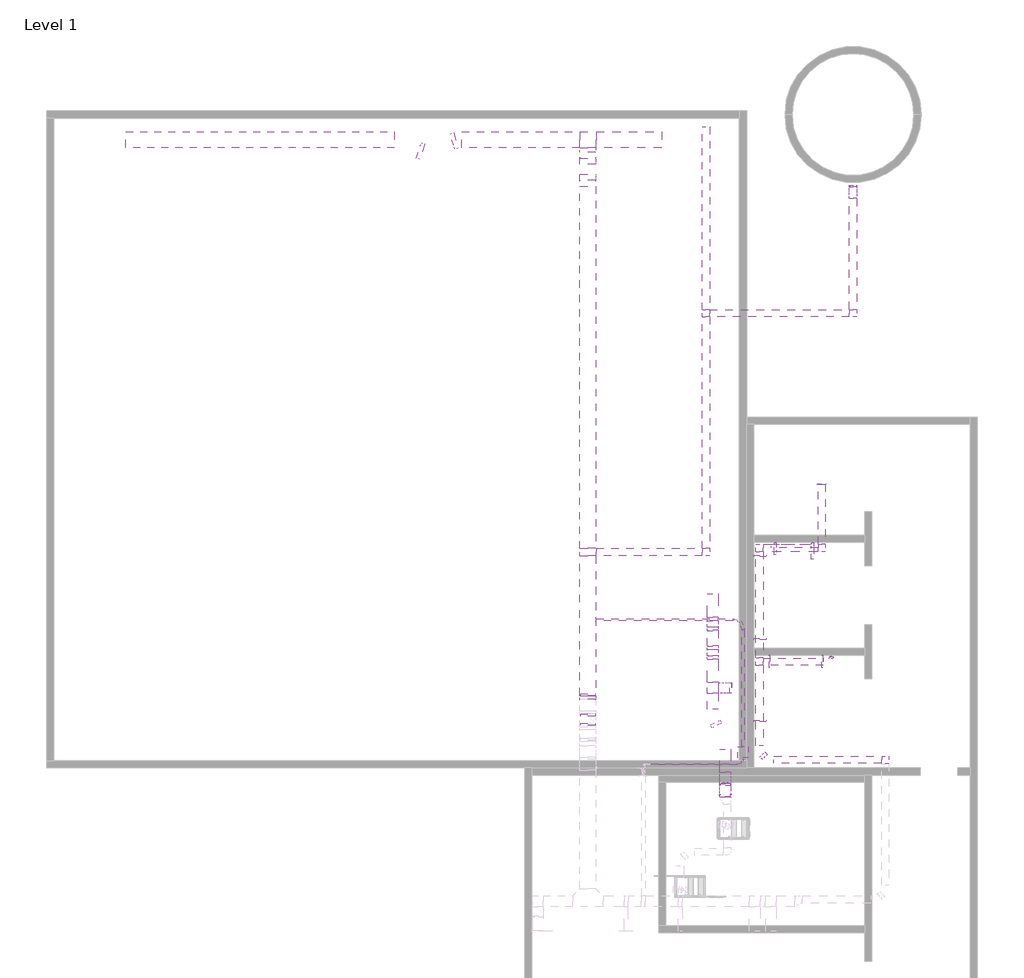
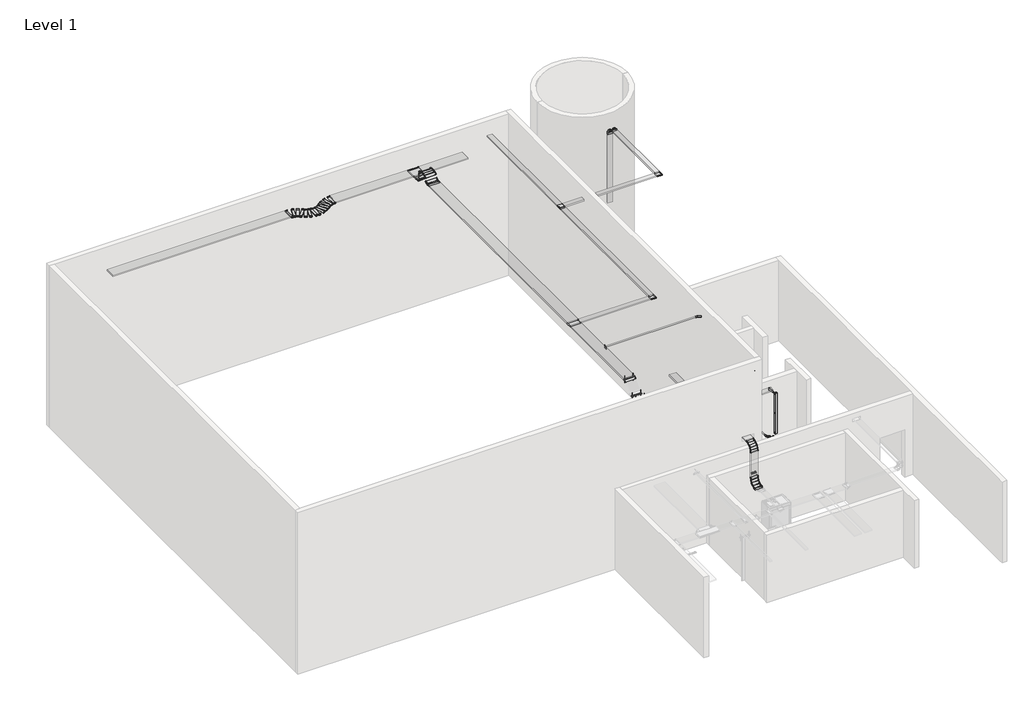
# One storey, part 3 of 3: 33 cable carrier segments, 29 cable carrier fittings, 17 electric appliances.
"""IFC4 building model written with IfcOpenShell, lengths in millimetres."""

from ifc_helpers import new_model, si_unit, point, frame, frame_2d, origin, place, context, project, spatial, polyline, circle_curve, trimmed, segment, composite_curve, outline, extrude, transform, mapped, element, save
from components import cable_carrier_fitting_1d7cee85, cable_carrier_fitting_d4a0889a, cable_carrier_fitting_e2da64ca, cable_carrier_fitting_e0ec710b, cable_carrier_fitting_238cf4a7, cable_carrier_fitting_5fe02373, cable_carrier_fitting_1cd74130, cable_carrier_fitting_0f341e1d, cable_carrier_fitting_95b36328, cable_carrier_fitting_2dc3f8d2, cable_carrier_fitting_cd092c5d, cable_carrier_fitting_32664b4b, conduit_elbow_plain_end_pvc_standard_b2e2501a, conduit_elbow_plain_end_pvc_standard_9a413171, conduit_junction_box_transition_pvc_standard_5b6be8b8, inside_feb4f6bf, inside_6eb1aa11, outside_c7e362af, outside_e205a3c8, outside_15df26a3, outside_2ad792aa, standard_9af1a614, electric_appliance_c7009005, standard_d3cc3933, standard_755d2ce0, standard_d35a98ab, standard_966c1fd9, standard_ea093acd, standard_c6b716ef, standard_7210bdc4, standard_b028e5ef

model = new_model("IFC4")

# Units and contexts
model_context = context("Model", 3, world=origin())
ifc_project = project(units=[si_unit("LENGTHUNIT", "METRE", prefix="MILLI")], contexts=[model_context])

# Site, building, storey
site = spatial("IfcSite", under=ifc_project)
building = spatial("IfcBuilding", under=site)
storey = spatial("IfcBuildingStorey", under=building, Name="Level 1", Elevation=0.0)

# Cable carrier fittings
placement = place(None, origin())
cable_carrier_fitting_shape = cable_carrier_fitting_1d7cee85(model_context)
element("IfcCableCarrierFitting", 1, ObjectType="Tee-Cablofil-Wire_Mesh_Cable_Tray : EZ T 90 KIT", at=placement, inside=storey, context=model_context, shape_type="MappedRepresentation", body=[
    mapped(cable_carrier_fitting_shape, transform((1590.1308637, 3116.8248952, 3962.4), x_axis=(0.0, 1.0, 0.0), y_axis=(-1.0, 0.0, 0.0), z_axis=(0.0, 0.0, 1.0))),
])
cable_carrier_fitting_2_shape = cable_carrier_fitting_d4a0889a(model_context)
element("IfcCableCarrierFitting", 2, ObjectType="Tee-Cablofil-Wire_Mesh_Cable_Tray : EZ T 90 KIT", at=placement, inside=storey, context=model_context, shape_type="MappedRepresentation", body=[
    mapped(cable_carrier_fitting_2_shape, transform((-1955.469197, 6970.8232107, 6807.2), x_axis=(0.0, 1.0, 0.0), y_axis=(-1.0, 0.0, 0.0), z_axis=(0.0, 0.0, 1.0))),
])
cable_carrier_fitting_3_shape = cable_carrier_fitting_e2da64ca(model_context)
element("IfcCableCarrierFitting", 3, ObjectType="Tee-Cablofil-Wire_Mesh_Cable_Tray : EZ T 90 KIT", at=placement, inside=storey, context=model_context, shape_type="MappedRepresentation", body=[
    mapped(cable_carrier_fitting_3_shape, transform((2915.3791948, 3862.7174485, 3352.8), x_axis=(0.0, 1.0, 0.0), y_axis=(-1.0, 0.0, 0.0), z_axis=(0.0, 0.0, 1.0))),
])
cable_carrier_fitting_4_shape = cable_carrier_fitting_e0ec710b(model_context)
element("IfcCableCarrierFitting", 4, ObjectType="Tee-Cablofil-Wire_Mesh_Cable_Tray : EZ T 90 KIT", at=placement, inside=storey, context=model_context, shape_type="MappedRepresentation", body=[
    mapped(cable_carrier_fitting_4_shape, transform((1397.330803, 13746.5239249, 6807.2), x_axis=(0.0, 1.0, 0.0), y_axis=(-1.0, 0.0, 0.0), z_axis=(0.0, 0.0, 1.0))),
])
cable_carrier_fitting_5_shape = cable_carrier_fitting_238cf4a7(model_context)
element("IfcCableCarrierFitting", 5, ObjectType="Bend-Horizontal-Cablofil-Wire_Mesh_Cable_Tray : EZ T 90 KIT", at=placement, inside=storey, context=model_context, shape_type="MappedRepresentation", body=[
    mapped(cable_carrier_fitting_5_shape, transform((2915.3791948, 7088.2240224, 3352.8), x_axis=(-1.0, 0.0, 0.0), y_axis=(0.0, -1.0, 0.0), z_axis=(0.0, 0.0, 1.0))),
])
element("IfcCableCarrierFitting", 6, ObjectType="Bend-Horizontal-Cablofil-Wire_Mesh_Cable_Tray : EZ T 90 KIT", at=placement, inside=storey, context=model_context, shape_type="MappedRepresentation", body=[
    mapped(cable_carrier_fitting_5_shape, transform((4680.6791948, 7088.2240224, 3352.8), x_axis=(1.0, 0.0, 0.0), y_axis=(0.0, 1.0, 0.0), z_axis=(0.0, 0.0, 1.0))),
])
element("IfcCableCarrierFitting", 7, ObjectType="Bend-Horizontal-Cablofil-Wire_Mesh_Cable_Tray : EZ T 90 KIT", at=placement, inside=storey, context=model_context, shape_type="MappedRepresentation", body=[
    mapped(cable_carrier_fitting_5_shape, transform((6484.0791948, 1074.2295988, 3352.8), x_axis=(0.0, 1.0, 0.0), y_axis=(-1.0, 0.0, 0.0), z_axis=(0.0, 0.0, 1.0))),
])
element("IfcCableCarrierFitting", 8, ObjectType="Bend-Horizontal-Cablofil-Wire_Mesh_Cable_Tray : EZ T 90 KIT", at=placement, inside=storey, context=model_context, shape_type="MappedRepresentation", body=[
    mapped(cable_carrier_fitting_5_shape, transform((1397.330803, 6970.8232107, 6807.2), x_axis=(1.0, 0.0, 0.0), y_axis=(0.0, 1.0, 0.0), z_axis=(0.0, 0.0, 1.0))),
])
element("IfcCableCarrierFitting", 9, ObjectType="Bend-Horizontal-Cablofil-Wire_Mesh_Cable_Tray : EZ T 90 KIT", at=placement, inside=storey, context=model_context, shape_type="MappedRepresentation", body=[
    mapped(cable_carrier_fitting_5_shape, transform((5569.6791948, 13746.5239249, 6807.2), x_axis=(1.0, 0.0, 0.0), y_axis=(0.0, 1.0, 0.0), z_axis=(0.0, 0.0, 1.0))),
])
cable_carrier_fitting_6_shape = cable_carrier_fitting_5fe02373(model_context)
element("IfcCableCarrierFitting", 10, ObjectType="Tee-Cablofil-Wire_Mesh_Cable_Tray : EZ T 90 KIT", at=placement, inside=storey, context=model_context, shape_type="MappedRepresentation", body=[
    mapped(cable_carrier_fitting_6_shape, transform((-1955.469197, 18672.7015785, 6553.2), x_axis=(1.0, 0.0, 0.0), y_axis=(0.0, 1.0, 0.0), z_axis=(0.0, 0.0, 1.0))),
])
cable_carrier_fitting_7_shape = cable_carrier_fitting_1cd74130(model_context)
element("IfcCableCarrierFitting", 11, ObjectType="Bend-Horizontal-Cablofil-Wire_Mesh_Cable_Tray-Cablobend : Cablobend", at=placement, inside=storey, context=model_context, shape_type="MappedRepresentation", body=[
    mapped(cable_carrier_fitting_7_shape, transform((2915.3791948, 1074.2295988, 3352.8), x_axis=(0.0, -1.0, 0.0), y_axis=(1.0, 0.0, 0.0), z_axis=(0.0, 0.0, 1.0))),
])
cable_carrier_fitting_8_shape = cable_carrier_fitting_0f341e1d(model_context)
element("IfcCableCarrierFitting", 12, ObjectType="Offset-Horizontal-Cablofil-Wire_Mesh_Cable_Tray-Cablobend : Cablobend", at=placement, inside=storey, context=model_context, shape_type="MappedRepresentation", body=[
    mapped(cable_carrier_fitting_8_shape, transform((-5884.1247244, 18672.7015785, 6553.2), x_axis=(-1.0, 0.0, 0.0), y_axis=(0.0, -1.0, 0.0), z_axis=(0.0, 0.0, 1.0))),
])
cable_carrier_fitting_9_shape = cable_carrier_fitting_95b36328(model_context)
element("IfcCableCarrierFitting", 13, ObjectType="Offset-Horizontal-Cablofil-Wire_Mesh_Cable_Tray-Cablobend : Cablobend", at=placement, inside=storey, context=model_context, shape_type="MappedRepresentation", body=[
    mapped(cable_carrier_fitting_9_shape, transform((-6841.7047244, 18317.1015785, 6553.2), x_axis=(-1.0, 0.0, 0.0), y_axis=(0.0, -1.0, 0.0), z_axis=(0.0, 0.0, 1.0))),
])
cable_carrier_fitting_10_shape = cable_carrier_fitting_2dc3f8d2(model_context)
element("IfcCableCarrierFitting", 14, ObjectType="Offset-Horizontal-Cablofil-Wire_Mesh_Cable_Tray-Cablobend : Cablobend", at=placement, inside=storey, context=model_context, shape_type="MappedRepresentation", body=[
    mapped(cable_carrier_fitting_10_shape, transform((1945.7308637, 1738.7722779, 3962.4), x_axis=(0.0, 1.0, 0.0), y_axis=(-1.0, 0.0, 0.0), z_axis=(0.0, 0.0, 1.0))),
])
cable_carrier_fitting_11_shape = cable_carrier_fitting_cd092c5d(model_context)
element("IfcCableCarrierFitting", 15, ObjectType="Offset-Vertical-Cablofil-Wire_Mesh_Cable_Tray-Cablobend : Cablobend", at=placement, inside=storey, context=model_context, shape_type="MappedRepresentation", body=[
    mapped(cable_carrier_fitting_11_shape, transform((-1955.469197, 17629.6590062, 6807.2), x_axis=(0.0, 1.0, 0.0), y_axis=(-1.0, 0.0, 0.0), z_axis=(0.0, 0.0, 1.0))),
])
cable_carrier_fitting_12_shape = cable_carrier_fitting_32664b4b(model_context)
element("IfcCableCarrierFitting", 16, ObjectType="Offset-Vertical-Cablofil-Wire_Mesh_Cable_Tray-Cablobend : Cablobend", at=placement, inside=storey, context=model_context, shape_type="MappedRepresentation", body=[
    mapped(cable_carrier_fitting_12_shape, transform((-1955.469197, 18033.7499153, 6553.2), x_axis=(0.0, -1.0, 0.0), y_axis=(1.0, 0.0, 0.0), z_axis=(0.0, 0.0, 1.0))),
])
conduit_elbow_plain_end_pvc_standard_shape = conduit_elbow_plain_end_pvc_standard_b2e2501a(model_context)
element("IfcCableCarrierFitting", 17, ObjectType="Conduit Elbow - Plain End - PVC : Standard", at=placement, inside=storey, context=model_context, shape_type="MappedRepresentation", body=[
    mapped(conduit_elbow_plain_end_pvc_standard_shape, transform((2445.4791948, 945.2390015, 6807.2), x_axis=(1.0, 0.0, 0.0), y_axis=(0.0, 1.0, 0.0), z_axis=(0.0, 0.0, 1.0))),
])
conduit_elbow_plain_end_pvc_standard_2_shape = conduit_elbow_plain_end_pvc_standard_9a413171(model_context)
element("IfcCableCarrierFitting", 18, ObjectType="Conduit Elbow - Plain End - PVC : Standard", at=placement, inside=storey, context=model_context, shape_type="MappedRepresentation", body=[
    mapped(conduit_elbow_plain_end_pvc_standard_2_shape, transform((2445.4791948, 5050.8348146, 6807.2), x_axis=(0.0, 1.0, 0.0), y_axis=(-1.0, 0.0, 0.0), z_axis=(0.0, 0.0, 1.0))),
])
conduit_junction_box_transition_pvc_standard_shape = conduit_junction_box_transition_pvc_standard_5b6be8b8(model_context)
element("IfcCableCarrierFitting", 19, ObjectType="Conduit Junction Box - Transition - PVC : Standard", at=placement, inside=storey, context=model_context, shape_type="MappedRepresentation", body=[
    mapped(conduit_junction_box_transition_pvc_standard_shape, transform((2445.4791948, 1138.9140015, 6807.2), x_axis=(0.0, 1.0, 0.0), y_axis=(-1.0, 0.0, 0.0), z_axis=(0.0, 0.0, 1.0))),
])
inside_shape = inside_feb4f6bf(model_context)
element("IfcCableCarrierFitting", 20, ObjectType="Bend-Vertical-Cablofil-Wire_Mesh_Cable_Tray-Cablobend : Inside", at=placement, inside=storey, context=model_context, shape_type="MappedRepresentation", body=[
    mapped(inside_shape, transform((1945.7308637, 371.687315, 2165.35), x_axis=(0.0, 1.0, 0.0), y_axis=(0.0, 0.0, 1.0), z_axis=(1.0, 0.0, 0.0))),
])
element("IfcCableCarrierFitting", 21, ObjectType="Bend-Vertical-Cablofil-Wire_Mesh_Cable_Tray-Cablobend : Inside", at=placement, inside=storey, context=model_context, shape_type="MappedRepresentation", body=[
    mapped(inside_shape, transform((2095.8424874, 3116.8248952, 3962.4), x_axis=(1.0, 0.0, 0.0), y_axis=(0.0, 0.0, 1.0), z_axis=(0.0, -1.0, 0.0))),
])
inside_2_shape = inside_6eb1aa11(model_context)
element("IfcCableCarrierFitting", 22, ObjectType="Bend-Vertical-Cablofil-Wire_Mesh_Cable_Tray-Cablobend : Inside", at=placement, inside=storey, context=model_context, shape_type="MappedRepresentation", body=[
    mapped(inside_2_shape, transform((1590.1308637, 4248.3251075, 3810.0), x_axis=(0.0, 0.866025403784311, -0.5000000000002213), y_axis=(0.0, 0.5000000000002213, 0.866025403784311), z_axis=(1.0, 0.0, 0.0))),
])
element("IfcCableCarrierFitting", 23, ObjectType="Bend-Vertical-Cablofil-Wire_Mesh_Cable_Tray-Cablobend : Inside", at=placement, inside=storey, context=model_context, shape_type="MappedRepresentation", body=[
    mapped(inside_2_shape, transform((1590.1308637, 4797.1605644, 3810.0), x_axis=(0.0, 1.0, 0.0), y_axis=(0.0, 0.0, 1.0), z_axis=(1.0, 0.0, 0.0))),
])
outside_shape = outside_c7e362af(model_context)
element("IfcCableCarrierFitting", 24, ObjectType="Bend-Vertical-Cablofil-Wire_Mesh_Cable_Tray-Cablobend : Outside", at=placement, inside=storey, context=model_context, shape_type="MappedRepresentation", body=[
    mapped(outside_shape, transform((-1955.469197, 2829.6921374, 6807.2), x_axis=(0.0, 0.7071067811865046, 0.7071067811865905), y_axis=(0.0, 0.7071067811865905, -0.7071067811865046), z_axis=(-1.0, 0.0, 0.0))),
])
outside_2_shape = outside_e205a3c8(model_context)
element("IfcCableCarrierFitting", 25, ObjectType="Bend-Vertical-Cablofil-Wire_Mesh_Cable_Tray-Cablobend : Outside", at=placement, inside=storey, context=model_context, shape_type="MappedRepresentation", body=[
    mapped(outside_2_shape, transform((5569.6791948, 17358.4921374, 6807.2), x_axis=(0.0, 0.0, 1.0), y_axis=(0.0, -1.0, 0.0), z_axis=(1.0, 0.0, 0.0))),
])
outside_3_shape = outside_15df26a3(model_context)
element("IfcCableCarrierFitting", 26, ObjectType="Bend-Vertical-Cablofil-Wire_Mesh_Cable_Tray-Cablobend : Outside", at=placement, inside=storey, context=model_context, shape_type="MappedRepresentation", body=[
    mapped(outside_3_shape, transform((1945.7308637, 371.687315, 3962.4), x_axis=(0.0, 0.0, 1.0), y_axis=(0.0, 1.0, 0.0), z_axis=(-1.0, 0.0, 0.0))),
])
outside_4_shape = outside_2ad792aa(model_context)
element("IfcCableCarrierFitting", 27, ObjectType="Bend-Vertical-Cablofil-Wire_Mesh_Cable_Tray-Cablobend : Outside", at=placement, inside=storey, context=model_context, shape_type="MappedRepresentation", body=[
    mapped(outside_4_shape, transform((1590.1308637, 3984.3605644, 3962.4), x_axis=(0.0, 1.0, 0.0), y_axis=(0.0, 0.0, -1.0), z_axis=(-1.0, 0.0, 0.0))),
])
element("IfcCableCarrierFitting", 28, ObjectType="Bend-Vertical-Cablofil-Wire_Mesh_Cable_Tray-Cablobend : Outside", at=placement, inside=storey, context=model_context, shape_type="MappedRepresentation", body=[
    mapped(outside_4_shape, transform((1590.1308637, 5061.1251075, 3962.4), x_axis=(0.0, 0.866025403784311, 0.5000000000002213), y_axis=(0.0, 0.5000000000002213, -0.866025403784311), z_axis=(-1.0, 0.0, 0.0))),
])
standard_shape = standard_9af1a614(model_context)
element("IfcCableCarrierFitting", 29, ObjectType="End-Cablofil-Wire_Mesh_Cable_Tray : Standard", at=placement, inside=storey, context=model_context, shape_type="MappedRepresentation", body=[
    mapped(standard_shape, transform((4680.6791948, 8899.9695988, 3352.8), x_axis=(0.0, 1.0, 0.0), y_axis=(-1.0, 0.0, 0.0), z_axis=(0.0, 0.0, 1.0))),
])

# Cable carrier segments
element("IfcCableCarrierSegment", 30, ObjectType="Cable_Tray-Wire_Mesh-Cablofil-Universal_Splice", at=placement, inside=storey, context=model_context, shape_type="SweptSolid", body=[
    extrude(outline(polyline([(2098.1308637, 16.087315), (1793.3308637, 16.087315), (1793.3308637, 21.5506914), (2098.1308637, 21.5506914), (2098.1308637, 16.087315)])), frame((0.0, 0.0, 2139.95), z_axis=(0.0, 0.0, 1.0), x_axis=(1.0, 0.0, 0.0)), (0.0, 0.0, 1.0), 50.8),
])
element("IfcCableCarrierSegment", 31, ObjectType="Cable_Tray-Wire_Mesh-Cablofil-Fast_Splice", at=placement, inside=storey, context=model_context, shape_type="SweptSolid", body=[
    extrude(outline(polyline([(-1726.869197, 7075.5982107), (-2184.069197, 7075.5982107), (-2184.069197, 17349.1044607), (-1726.869197, 17349.1044607), (-1726.869197, 7075.5982107)])), frame((0.0, 0.0, 6781.8), z_axis=(0.0, 0.0, 1.0), x_axis=(1.0, 0.0, 0.0)), (0.0, 0.0, 1.0), 50.8),
])
element("IfcCableCarrierSegment", 32, ObjectType="Cable_Tray-Wire_Mesh-Cablofil-Universal_Splice", at=placement, inside=storey, context=model_context, shape_type="SweptSolid", body=[
    extrude(outline(polyline([(3321.7791948, 972.6295988), (3321.7791948, 1175.8295988), (6379.3041948, 1175.8295988), (6379.3041948, 972.6295988), (3321.7791948, 972.6295988)])), frame((0.0, 0.0, 3327.4), z_axis=(0.0, 0.0, 1.0), x_axis=(1.0, 0.0, 0.0)), (0.0, 0.0, 1.0), 50.8),
])
element("IfcCableCarrierSegment", 33, ObjectType="Cable_Tray-Wire_Mesh-Cablofil-Universal_Splice", at=placement, inside=storey, context=model_context, shape_type="SweptSolid", body=[
    extrude(outline(polyline([(2813.7791948, 3757.9424485), (3016.9791948, 3757.9424485), (3016.9791948, 1480.6295988), (2813.7791948, 1480.6295988), (2813.7791948, 3757.9424485)])), frame((0.0, 0.0, 3327.4), z_axis=(0.0, 0.0, 1.0), x_axis=(1.0, 0.0, 0.0)), (0.0, 0.0, 1.0), 50.8),
])
element("IfcCableCarrierSegment", 34, ObjectType="Cable_Tray-Wire_Mesh-Cablofil-Universal_Splice", at=placement, inside=storey, context=model_context, shape_type="SweptSolid", body=[
    extrude(outline(polyline([(3020.1541948, 3761.1174485), (3020.1541948, 3964.3174485), (4721.9541948, 3964.3174485), (4721.9541948, 3761.1174485), (3020.1541948, 3761.1174485)])), frame((0.0, 0.0, 3327.4), z_axis=(0.0, 0.0, 1.0), x_axis=(1.0, 0.0, 0.0)), (0.0, 0.0, 1.0), 50.8),
])
element("IfcCableCarrierSegment", 35, ObjectType="Cable_Tray-Wire_Mesh-Cablofil-Universal_Splice", at=placement, inside=storey, context=model_context, shape_type="SweptSolid", body=[
    extrude(outline(polyline([(3016.9791948, 3967.4924485), (2813.7791948, 3967.4924485), (2813.7791948, 6983.4490224), (3016.9791948, 6983.4490224), (3016.9791948, 3967.4924485)])), frame((0.0, 0.0, 3327.4), z_axis=(0.0, 0.0, 1.0), x_axis=(1.0, 0.0, 0.0)), (0.0, 0.0, 1.0), 50.8),
])
element("IfcCableCarrierSegment", 36, ObjectType="Cable_Tray-Wire_Mesh-Cablofil-Universal_Splice", at=placement, inside=storey, context=model_context, shape_type="SweptSolid", body=[
    extrude(outline(polyline([(3020.1541948, 6986.6240224), (3020.1541948, 7189.8240224), (4575.9041948, 7189.8240224), (4575.9041948, 6986.6240224), (3020.1541948, 6986.6240224)])), frame((0.0, 0.0, 3327.4), z_axis=(0.0, 0.0, 1.0), x_axis=(1.0, 0.0, 0.0)), (0.0, 0.0, 1.0), 50.8),
])
element("IfcCableCarrierSegment", 37, ObjectType="Cable_Tray-Wire_Mesh-Cablofil-Universal_Splice", at=placement, inside=storey, context=model_context, shape_type="SweptSolid", body=[
    extrude(outline(polyline([(4782.2791948, 7192.9990224), (4579.0791948, 7192.9990224), (4579.0791948, 8899.9695988), (4782.2791948, 8899.9695988), (4782.2791948, 7192.9990224)])), frame((0.0, 0.0, 3327.4), z_axis=(0.0, 0.0, 1.0), x_axis=(1.0, 0.0, 0.0)), (0.0, 0.0, 1.0), 50.8),
])
element("IfcCableCarrierSegment", 38, ObjectType="Cable_Tray-Wire_Mesh-Cablofil-Fast_Splice", at=placement, inside=storey, context=model_context, shape_type="SweptSolid", body=[
    extrude(outline(polyline([(-1723.694197, 6869.2232107), (-1723.694197, 7072.4232107), (1292.555803, 7072.4232107), (1292.555803, 6869.2232107), (-1723.694197, 6869.2232107)])), frame((0.0, 0.0, 6781.8), z_axis=(0.0, 0.0, 1.0), x_axis=(1.0, 0.0, 0.0)), (0.0, 0.0, 1.0), 50.8),
])
element("IfcCableCarrierSegment", 39, ObjectType="Cable_Tray-Wire_Mesh-Cablofil-Cablobend", at=placement, inside=storey, context=model_context, shape_type="SweptSolid", body=[
    extrude(outline(polyline([(-1726.869197, 2895.1986857), (-2184.069197, 2895.1986857), (-2184.069197, 6866.0482107), (-1726.869197, 6866.0482107), (-1726.869197, 2895.1986857)])), frame((0.0, 0.0, 6781.8), z_axis=(0.0, 0.0, 1.0), x_axis=(1.0, 0.0, 0.0)), (0.0, 0.0, 1.0), 50.8),
])
element("IfcCableCarrierSegment", 40, ObjectType="Cable_Tray-Wire_Mesh-Cablofil-Fast_Splice", at=placement, inside=storey, context=model_context, shape_type="SweptSolid", body=[
    extrude(outline(polyline([(1498.930803, 13851.2989249), (1295.730803, 13851.2989249), (1295.730803, 19032.2639249), (1498.930803, 19032.2639249), (1498.930803, 13851.2989249)])), frame((0.0, 0.0, 6781.8), z_axis=(0.0, 0.0, 1.0), x_axis=(1.0, 0.0, 0.0)), (0.0, 0.0, 1.0), 50.8),
])
element("IfcCableCarrierSegment", 41, ObjectType="Cable_Tray-Wire_Mesh-Cablofil-Fast_Splice", at=placement, inside=storey, context=model_context, shape_type="SweptSolid", body=[
    extrude(outline(polyline([(1502.105803, 13644.9239249), (1502.105803, 13848.1239249), (5464.9041948, 13848.1239249), (5464.9041948, 13644.9239249), (1502.105803, 13644.9239249)])), frame((0.0, 0.0, 6781.8), z_axis=(0.0, 0.0, 1.0), x_axis=(1.0, 0.0, 0.0)), (0.0, 0.0, 1.0), 50.8),
])
element("IfcCableCarrierSegment", 42, ObjectType="Cable_Tray-Wire_Mesh-Cablofil-Fast_Splice", at=placement, inside=storey, context=model_context, shape_type="SweptSolid", body=[
    extrude(outline(polyline([(1295.730803, 13641.7489249), (1498.930803, 13641.7489249), (1498.930803, 7075.5982107), (1295.730803, 7075.5982107), (1295.730803, 13641.7489249)])), frame((0.0, 0.0, 6781.8), z_axis=(0.0, 0.0, 1.0), x_axis=(1.0, 0.0, 0.0)), (0.0, 0.0, 1.0), 50.8),
])
element("IfcCableCarrierSegment", 43, ObjectType="Cable_Tray-Wire_Mesh-Cablofil-Fast_Splice", at=placement, inside=storey, context=model_context, shape_type="SweptSolid", body=[
    extrude(outline(polyline([(5468.0791948, 17008.3555138), (5671.2791948, 17008.3555138), (5671.2791948, 13851.2989249), (5468.0791948, 13851.2989249), (5468.0791948, 17008.3555138)])), frame((0.0, 0.0, 6781.8), z_axis=(0.0, 0.0, 1.0), x_axis=(1.0, 0.0, 0.0)), (0.0, 0.0, 1.0), 50.8),
])
element("IfcCableCarrierSegment", 44, ObjectType="Cable_Tray-Wire_Mesh-Cablofil-Fast_Splice", at=placement, inside=storey, context=model_context, shape_type="SweptSolid", body=[
    extrude(outline(polyline([(5671.2791948, 17333.0921374), (5468.0791948, 17333.0921374), (5468.0791948, 17383.8921374), (5671.2791948, 17383.8921374), (5671.2791948, 17333.0921374)])), frame((0.0, 0.0, 3352.8), z_axis=(0.0, 0.0, 1.0), x_axis=(1.0, 0.0, 0.0)), (0.0, 0.0, 1.0), 3104.2633763),
])
element("IfcCableCarrierSegment", 45, ObjectType="Rigid Nonmetallic Conduit (RNC Sch 40)", at=placement, inside=storey, context=model_context, shape_type="SweptSolid", body=[
    extrude(outline(composite_curve([segment(trimmed(circle_curve(frame_2d((945.2390015, 6807.2)), 16.7005), [point((928.5385015, 6807.2))], [point((945.2390015, 6823.9005))], False, "CARTESIAN"), True, "CONTINUOUS"), segment(trimmed(circle_curve(frame_2d((945.2390015, 6807.2)), 16.7005), [point((945.2390015, 6823.9005))], [point((961.9395015, 6807.2))], False, "CARTESIAN"), True, "CONTINUOUS"), segment(trimmed(circle_curve(frame_2d((945.2390015, 6807.2)), 16.7005), [point((961.9395015, 6807.2))], [point((945.2390015, 6790.4995))], False, "CARTESIAN"), True, "CONTINUOUS"), segment(trimmed(circle_curve(frame_2d((945.2390015, 6807.2)), 16.7005), [point((945.2390015, 6790.4995))], [point((928.5385015, 6807.2))], False, "CARTESIAN"), True, "CONTINUOUS")], self_intersect=False)), frame((-160.822722, 0.0, 0.0), z_axis=(1.0, 0.0, 0.0), x_axis=(0.0, 1.0, 0.0)), (0.0, 0.0, 1.0), 2412.6269167),
])
element("IfcCableCarrierSegment", 46, ObjectType="Rigid Nonmetallic Conduit (RNC Sch 40)", at=placement, inside=storey, context=model_context, shape_type="SweptSolid", body=[
    extrude(outline(composite_curve([segment(trimmed(circle_curve(frame_2d((5050.8348146, 6807.2)), 30.1625), [point((5080.9973146, 6807.2))], [point((5050.8348146, 6777.0375))], False, "CARTESIAN"), True, "CONTINUOUS"), segment(trimmed(circle_curve(frame_2d((5050.8348146, 6807.2)), 30.1625), [point((5050.8348146, 6777.0375))], [point((5020.6723146, 6807.2))], False, "CARTESIAN"), True, "CONTINUOUS"), segment(trimmed(circle_curve(frame_2d((5050.8348146, 6807.2)), 30.1625), [point((5020.6723146, 6807.2))], [point((5050.8348146, 6837.3625))], False, "CARTESIAN"), True, "CONTINUOUS"), segment(trimmed(circle_curve(frame_2d((5050.8348146, 6807.2)), 30.1625), [point((5050.8348146, 6837.3625))], [point((5080.9973146, 6807.2))], False, "CARTESIAN"), True, "CONTINUOUS")], self_intersect=False)), frame((-1725.675397, 0.0, 0.0), z_axis=(1.0, 0.0, 0.0), x_axis=(0.0, 1.0, 0.0)), (0.0, 0.0, 1.0), 3879.0545917),
])
element("IfcCableCarrierSegment", 47, ObjectType="Rigid Nonmetallic Conduit (RNC Sch 40)", at=placement, inside=storey, context=model_context, shape_type="SweptSolid", body=[
    extrude(outline(composite_curve([segment(trimmed(circle_curve(frame_2d((6807.2, 2445.4791948)), 30.1625), [point((6807.2, 2475.6416948))], [point((6837.3625, 2445.4791948))], False, "CARTESIAN"), True, "CONTINUOUS"), segment(trimmed(circle_curve(frame_2d((6807.2, 2445.4791948)), 30.1625), [point((6837.3625, 2445.4791948))], [point((6807.2, 2415.3166948))], False, "CARTESIAN"), True, "CONTINUOUS"), segment(trimmed(circle_curve(frame_2d((6807.2, 2445.4791948)), 30.1625), [point((6807.2, 2415.3166948))], [point((6777.0375, 2445.4791948))], False, "CARTESIAN"), True, "CONTINUOUS"), segment(trimmed(circle_curve(frame_2d((6807.2, 2445.4791948)), 30.1625), [point((6777.0375, 2445.4791948))], [point((6807.2, 2475.6416948))], False, "CARTESIAN"), True, "CONTINUOUS")], self_intersect=False)), frame((0.0, 1443.7140015, 0.0), z_axis=(0.0, 1.0, 0.0), x_axis=(0.0, 0.0, 1.0)), (0.0, 0.0, 1.0), 3315.0208131),
])
element("IfcCableCarrierSegment", 48, ObjectType="Cable_Tray-Wire_Mesh-Cablofil-G_Tray", at=placement, inside=storey, context=model_context, shape_type="SweptSolid", body=[
    extrude(outline(polyline([(5001.2539753, 3999.5890015), (5001.2539753, 3948.7890015), (4899.6539753, 3948.7890015), (4899.6539753, 3999.5890015), (5001.2539753, 3999.5890015)])), frame((0.0, 0.0, 1219.2001018), z_axis=(0.0, 0.0, 1.0), x_axis=(1.0, 0.0, 0.0)), (0.0, 0.0, 1.0), 1828.8001018),
])
element("IfcCableCarrierSegment", 49, ObjectType="Cable_Tray-Wire_Mesh-Cablofil-G_Tray", at=placement, inside=storey, context=model_context, shape_type="SweptSolid", body=[
    extrude(outline(polyline([(3255.1041948, 7088.2240224), (3255.1041948, 7189.8240224), (4575.9041948, 7189.8240224), (4575.9041948, 7088.2240224), (3255.1041948, 7088.2240224)])), frame((0.0, 0.0, 3562.858), z_axis=(0.0, 0.0, 1.0), x_axis=(1.0, 0.0, 0.0)), (0.0, 0.0, 1.0), 50.8),
])
element("IfcCableCarrierSegment", 50, ObjectType="Cable_Tray-Wire_Mesh-Cablofil-Cablobend", at=placement, inside=storey, context=model_context, shape_type="SweptSolid", body=[
    extrude(outline(polyline([(2098.1308637, 721.8239387), (1793.3308637, 721.8239387), (1793.3308637, 1381.6724137), (2098.1308637, 1381.6724137), (2098.1308637, 721.8239387)])), frame((0.0, 0.0, 3937.0), z_axis=(0.0, 0.0, 1.0), x_axis=(1.0, 0.0, 0.0)), (0.0, 0.0, 1.0), 50.8),
])
element("IfcCableCarrierSegment", 51, ObjectType="Cable_Tray-Wire_Mesh-Cablofil-Universal_Splice", at=placement, inside=storey, context=model_context, shape_type="SweptSolid", body=[
    extrude(outline(polyline([(2098.1308637, 397.087315), (2098.1308637, 346.287315), (1793.3308637, 346.287315), (1793.3308637, 397.087315), (2098.1308637, 397.087315)])), frame((0.0, 0.0, 2515.4866237), z_axis=(0.0, 0.0, 1.0), x_axis=(1.0, 0.0, 0.0)), (0.0, 0.0, 1.0), 1096.7767527),
])
element("IfcCableCarrierSegment", 52, ObjectType="Cable_Tray-Wire_Mesh-Cablofil-Cablobend", at=placement, inside=storey, context=model_context, shape_type="SweptSolid", body=[
    extrude(outline(polyline([(1742.5308637, 3272.3998952), (1437.7308637, 3272.3998952), (1437.7308637, 3924.962625), (1742.5308637, 3924.962625), (1742.5308637, 3272.3998952)])), frame((0.0, 0.0, 3937.0), z_axis=(0.0, 0.0, 1.0), x_axis=(1.0, 0.0, 0.0)), (0.0, 0.0, 1.0), 50.8),
])
element("IfcCableCarrierSegment", 53, ObjectType="Cable_Tray-Wire_Mesh-Cablofil-Cablobend", at=placement, inside=storey, context=model_context, shape_type="SweptSolid", body=[
    extrude(outline(polyline([(1742.5308637, 4307.723047), (1437.7308637, 4307.723047), (1437.7308637, 4737.762625), (1742.5308637, 4737.762625), (1742.5308637, 4307.723047)])), frame((0.0, 0.0, 3784.6), z_axis=(0.0, 0.0, 1.0), x_axis=(1.0, 0.0, 0.0)), (0.0, 0.0, 1.0), 50.8),
])
element("IfcCableCarrierSegment", 54, ObjectType="Cable_Tray-Wire_Mesh-Cablofil-Cablobend", at=placement, inside=storey, context=model_context, shape_type="SweptSolid", body=[
    extrude(outline(polyline([(0.0, -304.8), (0.0, 0.0), (186.0041211, 0.0), (186.0041211, -304.8), (0.0, -304.8)])), frame((1437.7308637, 4023.1006889, 3910.703985), z_axis=(0.0, 0.5000000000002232, 0.8660254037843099), x_axis=(0.0, 0.8660254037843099, -0.5000000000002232)), (0.0, 0.0, 1.0), 50.8),
])
element("IfcCableCarrierSegment", 55, ObjectType="Cable_Tray-Wire_Mesh-Cablofil-Cablobend", at=placement, inside=storey, context=model_context, shape_type="SweptSolid", body=[
    extrude(outline(polyline([(1742.5308637, 5120.523047), (1437.7308637, 5120.523047), (1437.7308637, 5787.7605644), (1742.5308637, 5787.7605644), (1742.5308637, 5120.523047)])), frame((0.0, 0.0, 3937.0), z_axis=(0.0, 0.0, 1.0), x_axis=(1.0, 0.0, 0.0)), (0.0, 0.0, 1.0), 50.8),
])
element("IfcCableCarrierSegment", 56, ObjectType="Cable_Tray-Wire_Mesh-Cablofil-Cablobend", at=placement, inside=storey, context=model_context, shape_type="SweptSolid", body=[
    extrude(outline(polyline([(0.0, -304.8), (0.0, 0.0), (186.0041211, 0.0), (186.0041211, -304.8), (0.0, -304.8)])), frame((1437.7308637, 4861.3006889, 3817.7019245), z_axis=(0.0, -0.5000000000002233, 0.8660254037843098), x_axis=(0.0, 0.8660254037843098, 0.5000000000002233)), (0.0, 0.0, 1.0), 50.8),
])
element("IfcCableCarrierSegment", 57, ObjectType="Cable_Tray-Wire_Mesh-Cablofil-Cablobend", at=placement, inside=storey, context=model_context, shape_type="SweptSolid", body=[
    extrude(outline(polyline([(1742.5308637, 2504.3524137), (1437.7308637, 2504.3524137), (1437.7308637, 2961.2498952), (1742.5308637, 2961.2498952), (1742.5308637, 2504.3524137)])), frame((0.0, 0.0, 3937.0), z_axis=(0.0, 0.0, 1.0), x_axis=(1.0, 0.0, 0.0)), (0.0, 0.0, 1.0), 50.8),
])
element("IfcCableCarrierSegment", 58, ObjectType="Cable_Tray-Wire_Mesh-Cablofil-Cablobend", at=placement, inside=storey, context=model_context, shape_type="SweptSolid", body=[
    extrude(outline(polyline([(2121.2424874, 2964.4248952), (2070.4424874, 2964.4248952), (2070.4424874, 3269.2248952), (2121.2424874, 3269.2248952), (2121.2424874, 2964.4248952)])), frame((0.0, 0.0, 4312.5366237), z_axis=(0.0, 0.0, 1.0), x_axis=(1.0, 0.0, 0.0)), (0.0, 0.0, 1.0), 417.3267527),
])
element("IfcCableCarrierSegment", 59, ObjectType="Cable_Tray-Wire_Mesh-Cablofil-Fast_Splice", at=placement, inside=storey, context=model_context, shape_type="SweptSolid", body=[
    extrude(outline(polyline([(-2187.244197, 18901.3015785), (-2187.244197, 18444.1015785), (-5526.8252151, 18444.1015785), (-5526.8252151, 18901.3015785), (-2187.244197, 18901.3015785)])), frame((0.0, 0.0, 6527.8), z_axis=(0.0, 0.0, 1.0), x_axis=(1.0, 0.0, 0.0)), (0.0, 0.0, 1.0), 50.8),
])
element("IfcCableCarrierSegment", 60, ObjectType="Cable_Tray-Wire_Mesh-Cablofil-Fast_Splice", at=placement, inside=storey, context=model_context, shape_type="SweptSolid", body=[
    extrude(outline(polyline([(-2184.069197, 18440.9265785), (-1726.869197, 18440.9265785), (-1726.869197, 18314.3044607), (-2184.069197, 18314.3044607), (-2184.069197, 18440.9265785)])), frame((0.0, 0.0, 6527.8), z_axis=(0.0, 0.0, 1.0), x_axis=(1.0, 0.0, 0.0)), (0.0, 0.0, 1.0), 50.8),
])
element("IfcCableCarrierSegment", 61, ObjectType="Cable_Tray-Wire_Mesh-Cablofil-Fast_Splice", at=placement, inside=storey, context=model_context, shape_type="SweptSolid", body=[
    extrude(outline(polyline([(142.2421049, 18901.3015785), (142.2421049, 18444.1015785), (-1723.694197, 18444.1015785), (-1723.694197, 18901.3015785), (142.2421049, 18901.3015785)])), frame((0.0, 0.0, 6527.8), z_axis=(0.0, 0.0, 1.0), x_axis=(1.0, 0.0, 0.0)), (0.0, 0.0, 1.0), 50.8),
])
element("IfcCableCarrierSegment", 62, ObjectType="Cable_Tray-Wire_Mesh-Cablofil-Fast_Splice", at=placement, inside=storey, context=model_context, shape_type="SweptSolid", body=[
    extrude(outline(polyline([(-7441.9852151, 18901.3015785), (-7441.9852151, 18444.1015785), (-15061.9852151, 18444.1015785), (-15061.9852151, 18901.3015785), (-7441.9852151, 18901.3015785)])), frame((0.0, 0.0, 6527.8), z_axis=(0.0, 0.0, 1.0), x_axis=(1.0, 0.0, 0.0)), (0.0, 0.0, 1.0), 50.8),
])

# Electric appliances
electric_appliance_shape = electric_appliance_c7009005(model_context)
element("IfcElectricAppliance", 63, ObjectType="Clamp-Conduit-Cablofil : For 1/2\" - 4\" Conduit", at=placement, inside=storey, context=model_context, shape_type="MappedRepresentation", body=[
    mapped(electric_appliance_shape, transform((-1726.869197, 5050.8348146, 6807.2), x_axis=(0.0, 1.0, 0.0), y_axis=(0.0, 0.0, 1.0), z_axis=(1.0, 0.0, 0.0))),
])
standard_2_shape = standard_d3cc3933(model_context)
element("IfcElectricAppliance", 64, ObjectType="Clip-Trapeze-Cablofil : Standard", at=placement, inside=storey, context=model_context, shape_type="MappedRepresentation", body=[
    mapped(standard_2_shape, transform((2098.1308637, 84.726606, 2166.1054026), x_axis=(0.0, 1.0, 0.0), y_axis=(0.0, 0.0, 1.0), z_axis=(1.0, 0.0, 0.0))),
])
element("IfcElectricAppliance", 65, ObjectType="Clip-Trapeze-Cablofil : Standard", at=placement, inside=storey, context=model_context, shape_type="MappedRepresentation", body=[
    mapped(standard_2_shape, transform((1793.3308637, 84.726606, 2166.1054026), x_axis=(0.0, -1.0, 0.0), y_axis=(0.0, 0.0, 1.0), z_axis=(-1.0, 0.0, 0.0))),
])
standard_3_shape = standard_755d2ce0(model_context)
element("IfcElectricAppliance", 66, ObjectType="Bracket-Cantilever-Cablofil-Fas_Profile : Standard", at=placement, inside=storey, context=model_context, shape_type="MappedRepresentation", body=[
    mapped(standard_3_shape, transform((2928.0791948, 4501.2390015, 3327.4), x_axis=(0.0, 1.0, 0.0), y_axis=(1.0, 0.0, 0.0), z_axis=(0.0, 0.0, -1.0))),
])
standard_4_shape = standard_d35a98ab(model_context)
element("IfcElectricAppliance", 67, ObjectType="Bracket-I-Cablofil-FAS_Profile-Trapeeze : Standard", at=placement, inside=storey, context=model_context, shape_type="MappedRepresentation", body=[
    mapped(standard_4_shape, transform((-1955.469197, 2083.8810505, 6375.4), x_axis=(1.0, 0.0, 0.0), y_axis=(0.0, -1.0, 0.0), z_axis=(0.0, 0.0, -1.0))),
])
element("IfcElectricAppliance", 68, ObjectType="Bracket-I-Cablofil-FAS_Profile-Trapeeze : Standard", at=placement, inside=storey, context=model_context, shape_type="MappedRepresentation", body=[
    mapped(standard_4_shape, transform((-1955.469197, 2350.5810505, 6375.4), x_axis=(1.0, 0.0, 0.0), y_axis=(0.0, -1.0, 0.0), z_axis=(0.0, 0.0, -1.0))),
])
element("IfcElectricAppliance", 69, ObjectType="Bracket-I-Cablofil-FAS_Profile-Trapeeze : Standard", at=placement, inside=storey, context=model_context, shape_type="MappedRepresentation", body=[
    mapped(standard_4_shape, transform((-1955.469197, 2915.8385265, 6781.8), x_axis=(1.0, 0.0, 0.0), y_axis=(0.0, -1.0, 0.0), z_axis=(0.0, 0.0, -1.0))),
])
standard_5_shape = standard_966c1fd9(model_context)
element("IfcElectricAppliance", 70, ObjectType="Bracket-Wall-Cablofil : Standard", at=placement, inside=storey, context=model_context, shape_type="MappedRepresentation", body=[
    mapped(standard_5_shape, transform((1945.7308637, 437.2390015, 2650.383063), x_axis=(1.0, 0.0, 0.0), y_axis=(0.0, 0.0, 1.0), z_axis=(0.0, -1.0, 0.0))),
])
standard_6_shape = standard_ea093acd(model_context)
element("IfcElectricAppliance", 71, ObjectType="Mount-Surface-Cablofil : Standard", at=placement, inside=storey, context=model_context, shape_type="MappedRepresentation", body=[
    mapped(standard_6_shape, transform((4950.4539753, 3999.5890015, 3008.5001018), x_axis=(1.0, 0.0, 0.0), y_axis=(0.0, 0.0, -1.0), z_axis=(0.0, 1.0, 0.0))),
])
element("IfcElectricAppliance", 72, ObjectType="Mount-Surface-Cablofil : Standard", at=placement, inside=storey, context=model_context, shape_type="MappedRepresentation", body=[
    mapped(standard_6_shape, transform((4950.4539753, 3999.5890015, 1258.7001018), x_axis=(1.0, 0.0, 0.0), y_axis=(0.0, 0.0, -1.0), z_axis=(0.0, 1.0, 0.0))),
])
element("IfcElectricAppliance", 73, ObjectType="Mount-Surface-Cablofil : Standard", at=placement, inside=storey, context=model_context, shape_type="MappedRepresentation", body=[
    mapped(standard_6_shape, transform((4950.4539753, 3999.5890015, 2133.6001528), x_axis=(1.0, 0.0, 0.0), y_axis=(0.0, 0.0, -1.0), z_axis=(0.0, 1.0, 0.0))),
])
element("IfcElectricAppliance", 74, ObjectType="Bracket-Cantilever-Cablofil-Fas_Profile : Standard", at=placement, inside=storey, context=model_context, shape_type="MappedRepresentation", body=[
    mapped(standard_3_shape, transform((2928.0791948, 2179.8307267, 3327.4), x_axis=(0.0, 1.0, 0.0), y_axis=(1.0, 0.0, 0.0), z_axis=(0.0, 0.0, -1.0))),
])
element("IfcElectricAppliance", 75, ObjectType="Bracket-Cantilever-Cablofil-Fas_Profile : Standard", at=placement, inside=storey, context=model_context, shape_type="MappedRepresentation", body=[
    mapped(standard_3_shape, transform((2928.0791948, 6863.4390015, 3327.4), x_axis=(0.0, 1.0, 0.0), y_axis=(1.0, 0.0, 0.0), z_axis=(0.0, 0.0, -1.0))),
])
standard_7_shape = standard_c6b716ef(model_context)
element("IfcElectricAppliance", 76, ObjectType="Bracket-Cantilever-Cablofil-Reinforced : Standard", at=placement, inside=storey, context=model_context, shape_type="MappedRepresentation", body=[
    mapped(standard_7_shape, transform((4697.9805211, 3862.7174485, 3327.4), x_axis=(1.0, 0.0, 0.0), y_axis=(0.0, -1.0, 0.0), z_axis=(0.0, 0.0, -1.0))),
])
element("IfcElectricAppliance", 77, ObjectType="Bracket-Cantilever-Cablofil-Reinforced : Standard", at=placement, inside=storey, context=model_context, shape_type="MappedRepresentation", body=[
    mapped(standard_7_shape, transform((3198.7149882, 3864.6174485, 3327.4), x_axis=(1.0, 0.0, 0.0), y_axis=(0.0, -1.0, 0.0), z_axis=(0.0, 0.0, -1.0))),
])
standard_8_shape = standard_7210bdc4(model_context)
element("IfcElectricAppliance", 78, ObjectType="Bracket-C-Cablofil-Fas_Profile : Standard", at=placement, inside=storey, context=model_context, shape_type="MappedRepresentation", body=[
    mapped(standard_8_shape, transform((4422.3950858, 7003.1390015, 3327.4), x_axis=(1.0, 0.0, 0.0), y_axis=(0.0, -1.0, 0.0), z_axis=(0.0, 0.0, -1.0))),
])
standard_9_shape = standard_b028e5ef(model_context)
element("IfcElectricAppliance", 79, ObjectType="Bracket-C-Cablofil-Standard : Standard", at=placement, inside=storey, context=model_context, shape_type="MappedRepresentation", body=[
    mapped(standard_9_shape, transform((3366.2291948, 7072.9890015, 3327.4), x_axis=(1.0, 0.0, 0.0), y_axis=(0.0, -1.0, 0.0), z_axis=(0.0, 0.0, -1.0))),
])

save(model, "model.ifc")
